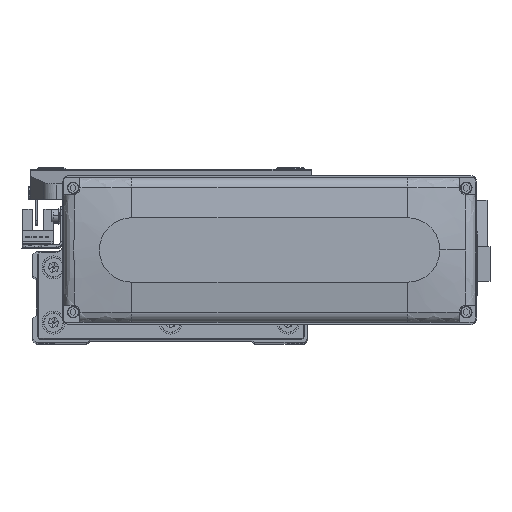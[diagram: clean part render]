
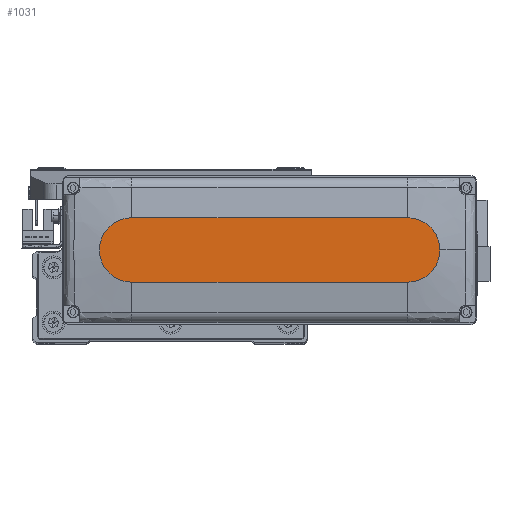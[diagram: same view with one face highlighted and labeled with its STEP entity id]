
A CAD part, top view. The second image highlights one B-rep face of the part: STEP entity #1031.
In plain terms, the highlighted planar face has unit normal (0, 0, 1).
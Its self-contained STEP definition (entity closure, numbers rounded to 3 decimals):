
#1031 = ADVANCED_FACE ( 'NONE', ( #3799 ), #15621, .T. ) ;
#2675 = VERTEX_POINT ( 'NONE', #14818 ) ;
#3673 = VERTEX_POINT ( 'NONE', #28406 ) ;
#3799 = FACE_OUTER_BOUND ( 'NONE', #49224, .T. ) ;
#4831 = VECTOR ( 'NONE', #17174, 1000. ) ;
#5412 = CARTESIAN_POINT ( 'NONE',  ( 60., 14., 28.5 ) ) ;
#5426 = DIRECTION ( 'NONE',  ( 0., 0., 1. ) ) ;
#9442 = ORIENTED_EDGE ( 'NONE', *, *, #39598, .T. ) ;
#11557 = EDGE_CURVE ( 'NONE', #3673, #27178, #28576, .T. ) ;
#11629 = VECTOR ( 'NONE', #20624, 1000. ) ;
#11966 = DIRECTION ( 'NONE',  ( 1., 0., 0. ) ) ;
#13187 = CARTESIAN_POINT ( 'NONE',  ( -60., -14., 28.5 ) ) ;
#13540 = AXIS2_PLACEMENT_3D ( 'NONE', #39965, #28179, #36859 ) ;
#14818 = CARTESIAN_POINT ( 'NONE',  ( -60., 14., 28.5 ) ) ;
#15621 = PLANE ( 'NONE',  #30344 ) ;
#15627 = VERTEX_POINT ( 'NONE', #5412 ) ;
#17108 = CARTESIAN_POINT ( 'NONE',  ( 74., 0., 28.5 ) ) ;
#17174 = DIRECTION ( 'NONE',  ( 1., 0., 0. ) ) ;
#17423 = LINE ( 'NONE', #48679, #4831 ) ;
#17601 = EDGE_CURVE ( 'NONE', #28815, #3673, #17423, .T. ) ;
#18958 = DIRECTION ( 'NONE',  ( 0., 0., 1. ) ) ;
#19251 = DIRECTION ( 'NONE',  ( 1., 0., 0. ) ) ;
#20624 = DIRECTION ( 'NONE',  ( -1., 0., 0. ) ) ;
#24040 = ORIENTED_EDGE ( 'NONE', *, *, #33145, .T. ) ;
#24199 = CIRCLE ( 'NONE', #13540, 14. ) ;
#24735 = LINE ( 'NONE', #31922, #11629 ) ;
#26657 = CARTESIAN_POINT ( 'NONE',  ( 0., 0., 28.5 ) ) ;
#27178 = VERTEX_POINT ( 'NONE', #17108 ) ;
#28179 = DIRECTION ( 'NONE',  ( 0., 0., 1. ) ) ;
#28406 = CARTESIAN_POINT ( 'NONE',  ( 60., -14., 28.5 ) ) ;
#28576 = CIRCLE ( 'NONE', #50633, 14. ) ;
#28815 = VERTEX_POINT ( 'NONE', #13187 ) ;
#30344 = AXIS2_PLACEMENT_3D ( 'NONE', #26657, #18958, #42271 ) ;
#31922 = CARTESIAN_POINT ( 'NONE',  ( -60., 14., 28.5 ) ) ;
#33112 = CARTESIAN_POINT ( 'NONE',  ( 60., 0., 28.5 ) ) ;
#33145 = EDGE_CURVE ( 'NONE', #27178, #15627, #43238, .T. ) ;
#33383 = AXIS2_PLACEMENT_3D ( 'NONE', #34127, #45920, #19251 ) ;
#34127 = CARTESIAN_POINT ( 'NONE',  ( 60., 0., 28.5 ) ) ;
#35236 = ORIENTED_EDGE ( 'NONE', *, *, #43047, .T. ) ;
#36859 = DIRECTION ( 'NONE',  ( 1., 0., 0. ) ) ;
#39598 = EDGE_CURVE ( 'NONE', #15627, #2675, #24735, .T. ) ;
#39965 = CARTESIAN_POINT ( 'NONE',  ( -60., 0., 28.5 ) ) ;
#42271 = DIRECTION ( 'NONE',  ( 1., 0., 0. ) ) ;
#43047 = EDGE_CURVE ( 'NONE', #2675, #28815, #24199, .T. ) ;
#43238 = CIRCLE ( 'NONE', #33383, 14. ) ;
#45854 = ORIENTED_EDGE ( 'NONE', *, *, #11557, .T. ) ;
#45920 = DIRECTION ( 'NONE',  ( 0., 0., 1. ) ) ;
#48679 = CARTESIAN_POINT ( 'NONE',  ( -60., -14., 28.5 ) ) ;
#49220 = ORIENTED_EDGE ( 'NONE', *, *, #17601, .T. ) ;
#49224 = EDGE_LOOP ( 'NONE', ( #9442, #35236, #49220, #45854, #24040 ) ) ;
#50633 = AXIS2_PLACEMENT_3D ( 'NONE', #33112, #5426, #11966 ) ;
